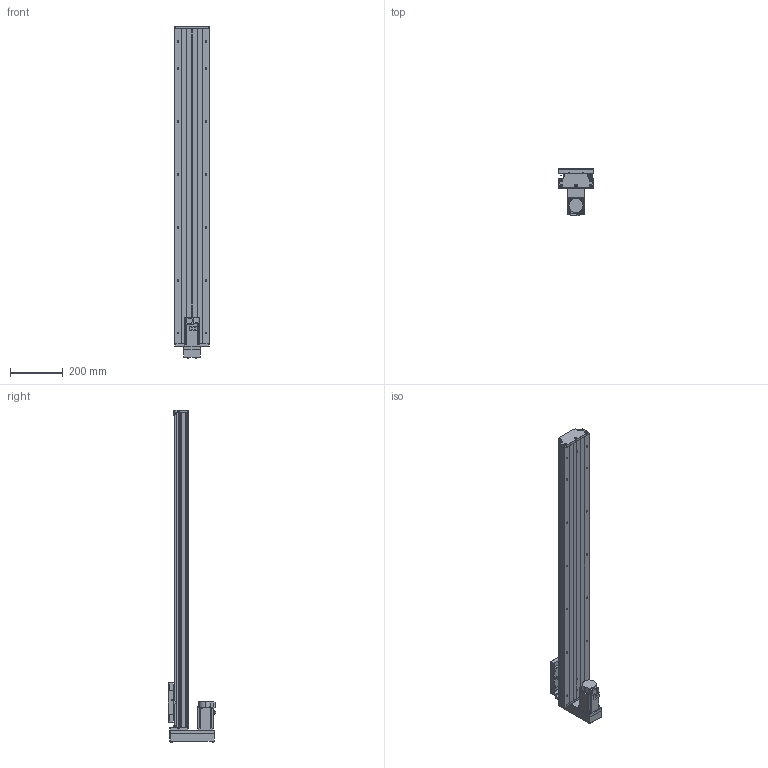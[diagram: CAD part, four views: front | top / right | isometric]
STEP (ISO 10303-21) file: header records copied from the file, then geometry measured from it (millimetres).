
FILE_DESCRIPTION (( 'STEP AP203' ), '1' );
FILE_NAME ('CTH130-1000-BM-M40-C4.step', '2023-06-30T02:42:48', ( '微软用户' ), ( '微软中国' ), 'SwSTEP 2.0', 'SolidWorks 2020', '' );
FILE_SCHEMA (( 'CONFIG_CONTROL_DESIGN' ));
Length unit declared in the file: millimetre
Products named in the file (20): HG-KN43J-S100; GB T308.1-2013-6.35; CTHA60-016; GBT 70.2-M4¡Á35_M4¡Á35; GTH14-004; GBT 70.1-M3℅5; GTH14-015-2_CTHA86-015-2; GTH14-005; GBT77-2000 M3×3; GTH14-033; GB1155-6X6; CTH130-031; CTH130-1000-BM-M40-C4; GBT70.1 M5℅16; GBT 70.2-M3¡Á5_M3¡Á6; GTH14-001_1000; CTHA60-017; す晦芛蹟隊 M3℅5; CTH130-002_GTH14-002; EE_SX911P_R
Assembly tree (60 placements, depth 2):
  CTH130-1000-BM-M40-C4
    GTH14-001_1000
    CTH130-002_GTH14-002
    GB T308.1-2013-6.35  x2
    GTH14-004
    GTH14-005
    GB1155-6X6  x2
    GBT70.1 M5℅16  x10
    CTHA60-017  x3
    EE_SX911P_R  x3
    CTHA60-016  x2
    GBT 70.1-M3℅5  x6
    GBT77-2000 M3×3  x6
    CTH130-031
    GBT 70.2-M3¡Á5_M3¡Á6  x8
    す晦芛蹟隊 M3℅5  x6
    HG-KN43J-S100
    GBT 70.2-M4¡Á35_M4¡Á35  x4
    GTH14-015-2_CTHA86-015-2
    GTH14-033
Bounding box: 135 x 179.8 x 1254.2 mm (x, y, z)
Volume: 6548293 mm3; surface area: 1056416.8 mm2
Topology: 63 solids, 63 shells, 2455 faces, 5845 edges, 3617 vertices
Faces by surface type: plane 1314, cylinder 662, cone 299, torus 124, sphere 36, bspline 20
Entity records: 44540 total; most frequent: CARTESIAN_POINT 9947, DIRECTION 6522, ORIENTED_EDGE 6396, EDGE_CURVE 3198, AXIS2_PLACEMENT_3D 2236, LINE 2050, VECTOR 2050, VERTEX_POINT 2027
